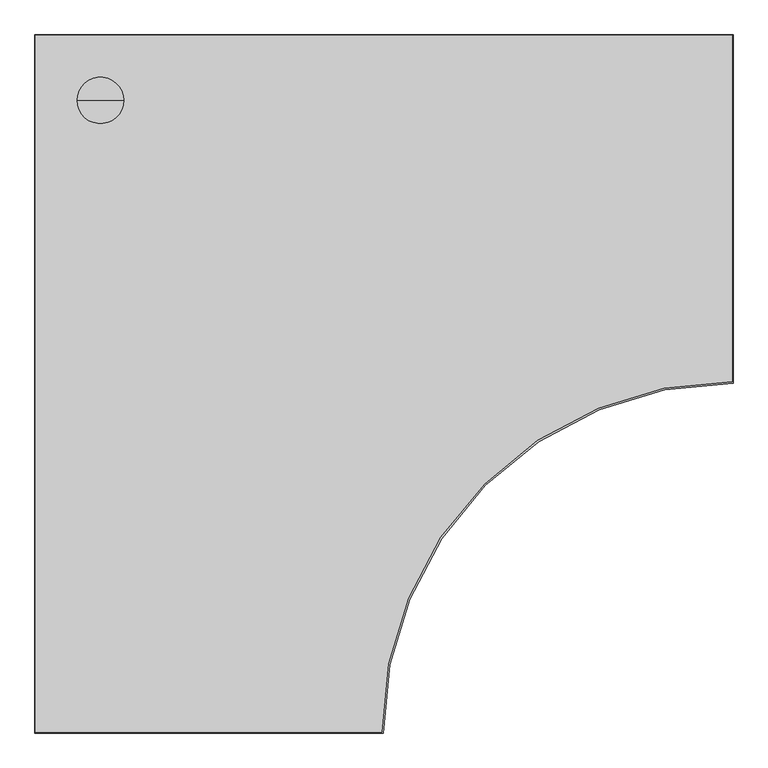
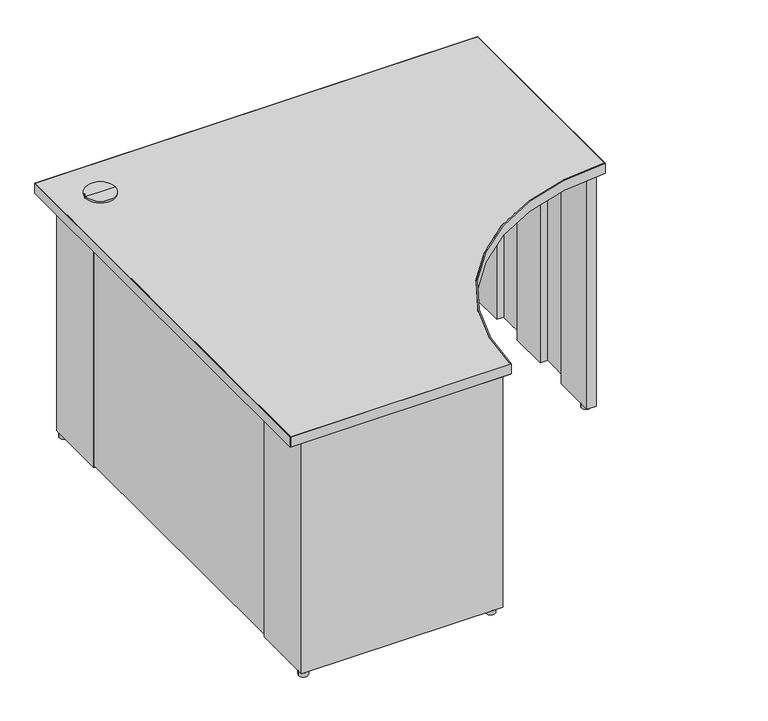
"""IFC4 building model written with IfcOpenShell, lengths in millimetres: furniture geometry, Steelcase - Kick Freestanding - Desk - Curve Corner - Full Height Modesty Panel : 24D x 48W - Two Full Panel - LPL."""

from ifc_helpers import new_model, si_unit, point, frame, frame_2d, origin, origin_with_axes, place, context, project, spatial, polyline, circle_curve, trimmed, segment, composite_curve, outline, extrude, source, transform, mapped, element, save
from ifc_brep_helpers import plane_surface, cylinder_surface, advanced_brep


def furniture_105e662f(model_context):
    return source(origin(), model_context, "Body", "SolidModel", [
        extrude(outline(composite_curve([segment(trimmed(circle_curve(frame_2d((1191.2853521, -565.8064761)), 12.7), [point((1178.5853521, -565.8064761))], [point((1203.9853521, -565.8064761))], False, "CARTESIAN"), True, "CONTINUOUS"), segment(trimmed(circle_curve(frame_2d((1191.2853521, -565.8064761)), 12.7), [point((1203.9853521, -565.8064761))], [point((1178.5853521, -565.8064761))], False, "CARTESIAN"), True, "CONTINUOUS")], self_intersect=False)), origin_with_axes(), (0.0, 0.0, 1.0), 12.446),
        extrude(outline(composite_curve([segment(trimmed(circle_curve(frame_2d((566.7971133, -1192.2759893)), 12.7), [point((554.0971133, -1192.2759893))], [point((579.4971133, -1192.2759893))], False, "CARTESIAN"), True, "CONTINUOUS"), segment(trimmed(circle_curve(frame_2d((566.7971133, -1192.2759893)), 12.7), [point((579.4971133, -1192.2759893))], [point((554.0971133, -1192.2759893))], False, "CARTESIAN"), True, "CONTINUOUS")], self_intersect=False)), origin_with_axes(), (0.0, 0.0, 1.0), 12.446),
        extrude(outline(polyline([(215.8999939, -63.5), (63.5, -63.5), (63.5, -215.8999939), (38.1, -215.8999939), (38.1, -38.1), (215.8999939, -38.1), (215.8999939, -63.5)])), frame((0.0, 0.0, 12.446), z_axis=(0.0, 0.0, 1.0), x_axis=(1.0, 0.0, 0.0)), (0.0, 0.0, 1.0), 682.498),
        extrude(outline(polyline([(63.5, -1027.4300194), (63.5, -1179.8300194), (161.3662, -1179.8300194), (161.3662, -1199.4895822), (261.0866, -1199.4895822), (261.0866, -1179.8300194), (369.824, -1179.8300194), (369.824, -1199.4895822), (469.5444, -1199.4895822), (469.5444, -1179.8300194), (592.582, -1179.8300194), (592.582, -1205.2299952), (38.1, -1205.2299952), (38.1, -1027.4300194), (63.5, -1027.4300194)])), frame((0.0, 0.0, 12.446), z_axis=(0.0, 0.0, 1.0), x_axis=(1.0, 0.0, 0.0)), (0.0, 0.0, 1.0), 682.498),
        extrude(outline(polyline([(1026.4393822, -63.5), (1026.4393822, -38.1), (1204.2393579, -38.1), (1204.2393579, -592.582), (1178.3313463, -592.582), (1178.3313463, -469.5444), (1198.498945, -469.5444), (1198.498945, -369.824), (1178.3313463, -369.824), (1178.3313463, -261.0866), (1198.498945, -261.0866), (1198.498945, -161.3662), (1178.3313463, -161.3662), (1178.3313463, -63.5), (1026.4393822, -63.5)])), frame((0.0, 0.0, 12.446), z_axis=(0.0, 0.0, 1.0), x_axis=(1.0, 0.0, 0.0)), (0.0, 0.0, 1.0), 682.498),
        advanced_brep(
        [(114.3, -114.3, 728.98), (154.94, -114.3, 728.98), (73.66, -114.3, 728.98), (76.1699693, -114.3, 694.944), (152.4300307, -114.3, 694.944), (114.3, -114.3, 694.944), (76.1699693, -114.3, 723.9), (152.4300307, -114.3, 723.9), (73.66, -114.3, 723.9), (154.94, -114.3, 723.9)],
        [
            (0, 1),
            (1, 2, circle_curve(frame((114.3, -114.3, 728.98), z_axis=(0.0, 0.0, 1.0), x_axis=(1.0, 0.0, 0.0)), 40.64)),
            (2, 0),
            (2, 1, circle_curve(frame((114.3, -114.3, 728.98), z_axis=(0.0, 0.0, 1.0), x_axis=(1.0, 0.0, 0.0)), 40.64)),
            (3, 4, circle_curve(frame((114.3, -114.3, 694.944), z_axis=(0.0, 0.0, -1.0), x_axis=(1.0, 0.0, 0.0)), 38.1300307)),
            (4, 5),
            (5, 3),
            (4, 3, circle_curve(frame((114.3, -114.3, 694.944), z_axis=(0.0, 0.0, -1.0), x_axis=(1.0, 0.0, 0.0)), 38.1300307)),
            (6, 7, circle_curve(frame((114.3, -114.3, 723.9), z_axis=(0.0, 0.0, -1.0), x_axis=(1.0, 0.0, 0.0)), 38.1300307)),
            (7, 4),
            (3, 6),
            (7, 6, circle_curve(frame((114.3, -114.3, 723.9), z_axis=(0.0, 0.0, -1.0), x_axis=(1.0, 0.0, 0.0)), 38.1300307)),
            (8, 9, circle_curve(frame((114.3, -114.3, 723.9), z_axis=(0.0, 0.0, -1.0), x_axis=(1.0, 0.0, 0.0)), 40.64)),
            (9, 7),
            (6, 8),
            (9, 8, circle_curve(frame((114.3, -114.3, 723.9), z_axis=(0.0, 0.0, -1.0), x_axis=(1.0, 0.0, 0.0)), 40.64)),
            (1, 9),
            (8, 2),
        ],
        [
            plane_surface(frame((114.3, -114.3, 728.98), z_axis=(0.0, 0.0, 1.0), x_axis=(1.0, 0.0, 0.0))),
            plane_surface(frame((114.3, -114.3, 694.944), z_axis=(0.0, 0.0, -1.0), x_axis=(1.0, 0.0, 0.0))),
            cylinder_surface(frame((114.3, -114.3, 728.98), z_axis=(0.0, 0.0, 1.0), x_axis=(1.0, 0.0, 0.0)), 38.1300307),
            plane_surface(frame((114.3, -114.3, 723.9), z_axis=(0.0, 0.0, -1.0), x_axis=(1.0, 0.0, 0.0))),
            cylinder_surface(frame((114.3, -114.3, 728.98), z_axis=(0.0, 0.0, 1.0), x_axis=(1.0, 0.0, 0.0)), 40.64),
        ],
        [
            (0, [[1, 2, 3]]),
            (0, [[-3, 4, -1]]),
            (1, [[5, 6, 7]]),
            (1, [[8, -7, -6]]),
            (2, [[9, 10, -5, 11]]),
            (2, [[12, -11, -8, -10]]),
            (3, [[13, 14, -9, 15]]),
            (3, [[16, -15, -12, -14]]),
            (4, [[-2, 17, -13, 18]]),
            (4, [[-4, -18, -16, -17]]),
        ],
    ),
        extrude(outline(composite_curve([segment(trimmed(circle_curve(frame_2d((50.8, -50.8)), 12.7), [point((38.1, -50.8))], [point((63.5, -50.8))], False, "CARTESIAN"), True, "CONTINUOUS"), segment(trimmed(circle_curve(frame_2d((50.8, -50.8)), 12.7), [point((63.5, -50.8))], [point((38.1, -50.8))], False, "CARTESIAN"), True, "CONTINUOUS")], self_intersect=False)), origin_with_axes(), (0.0, 0.0, 1.0), 12.446),
        extrude(outline(composite_curve([segment(trimmed(circle_curve(frame_2d((50.8, -1192.5300073)), 12.7484998), [point((38.0515002, -1192.5300073))], [point((63.5484998, -1192.5300073))], False, "CARTESIAN"), True, "CONTINUOUS"), segment(trimmed(circle_curve(frame_2d((50.8, -1192.5300073)), 12.7484998), [point((63.5484998, -1192.5300073))], [point((38.0515002, -1192.5300073))], False, "CARTESIAN"), True, "CONTINUOUS")], self_intersect=False)), origin_with_axes(), (0.0, 0.0, 1.0), 12.446),
        extrude(outline(composite_curve([segment(trimmed(circle_curve(frame_2d((1191.2853521, -50.8)), 12.7), [point((1178.5853521, -50.8))], [point((1203.9853521, -50.8))], False, "CARTESIAN"), True, "CONTINUOUS"), segment(trimmed(circle_curve(frame_2d((1191.2853521, -50.8)), 12.7), [point((1203.9853521, -50.8))], [point((1178.5853521, -50.8))], False, "CARTESIAN"), True, "CONTINUOUS")], self_intersect=False)), origin_with_axes(), (0.0, 0.0, 1.0), 12.446),
        extrude(outline(polyline([(63.5, -215.8999939), (63.5, -1027.4300194), (38.1, -1027.4300194), (38.1, -215.8999939), (63.5, -215.8999939)])), frame((0.0, 0.0, 20.828), z_axis=(0.0, 0.0, 1.0), x_axis=(1.0, 0.0, 0.0)), (0.0, 0.0, 1.0), 674.116),
        extrude(outline(polyline([(1026.4393822, -38.1), (1026.4393822, -63.5), (215.8999939, -63.5), (215.8999939, -38.1), (1026.4393822, -38.1)])), frame((0.0, 0.0, 20.828), z_axis=(0.0, 0.0, 1.0), x_axis=(1.0, 0.0, 0.0)), (0.0, 0.0, 1.0), 674.116),
        extrude(outline(composite_curve([segment(polyline([(0.9906, -1218.2093628), (0.9906, -0.9906), (1218.2093628, -0.9906), (1218.2093628, -605.3354109)]), True, "CONTINUOUS"), segment(trimmed(circle_curve(frame_2d((1216.9393458, -1216.9393458)), 611.6052536), [point((1218.2093628, -605.3354109))], [point((605.3354109, -1218.2093628))], True, "CARTESIAN"), True, "CONTINUOUS"), segment(polyline([(605.3354109, -1218.2093628), (0.9906, -1218.2093628)]), True, "CONTINUOUS")], self_intersect=False)), frame((0.0, 0.0, 694.944), z_axis=(0.0, 0.0, 1.0), x_axis=(1.0, 0.0, 0.0)), (0.0, 0.0, 1.0), 28.956),
        extrude(outline(composite_curve([segment(polyline([(1219.2, 0.0), (1219.2, -608.332629)]), True, "CONTINUOUS"), segment(trimmed(circle_curve(frame_2d((1217.929983, -1217.929983)), 609.598677), [point((1219.2, -608.332629))], [point((608.332629, -1219.2))], True, "CARTESIAN"), True, "CONTINUOUS"), segment(polyline([(608.332629, -1219.2), (0.0, -1219.2), (0.0, 0.0), (1219.2, 0.0)]), True, "CONTINUOUS")], self_intersect=False), holes=[composite_curve([segment(polyline([(1218.2093628, -0.9906), (0.9906, -0.9906), (0.9906, -1218.2093628), (605.3354109, -1218.2093628)]), True, "CONTINUOUS"), segment(trimmed(circle_curve(frame_2d((1216.9393458, -1216.9393458)), 611.6052536), [point((605.3354109, -1218.2093628))], [point((1218.2093628, -605.3354109))], False, "CARTESIAN"), True, "CONTINUOUS"), segment(polyline([(1218.2093628, -605.3354109), (1218.2093628, -0.9906)]), True, "CONTINUOUS")], self_intersect=False)]), frame((0.0, 0.0, 694.944), z_axis=(0.0, 0.0, 1.0), x_axis=(1.0, 0.0, 0.0)), (0.0, 0.0, 1.0), 28.956),
    ])


if __name__ == "__main__":
    model = new_model("IFC4")
    model_context = context("Model", 3, world=origin())
    ifc_project = project(units=[si_unit("LENGTHUNIT", "METRE", prefix="MILLI")], contexts=[model_context])
    site = spatial("IfcSite", under=ifc_project)
    building = spatial("IfcBuilding", under=site)
    placement = place(None, origin())
    furniture_shape = furniture_105e662f(model_context)
    element("IfcFurniture", 1, ObjectType="Steelcase - Kick Freestanding - Desk - Curve Corner - Full Height Modesty Panel : 24D x 48W - Two Full Panel - LPL", at=placement, inside=building, context=model_context, shape_type="MappedRepresentation", body=[
        mapped(furniture_shape, transform((0.0, 0.0, 0.0), x_axis=(1.0, 0.0, 0.0), y_axis=(0.0, 1.0, 0.0), z_axis=(0.0, 0.0, 1.0))),
    ])
    save(model, "model.ifc")
